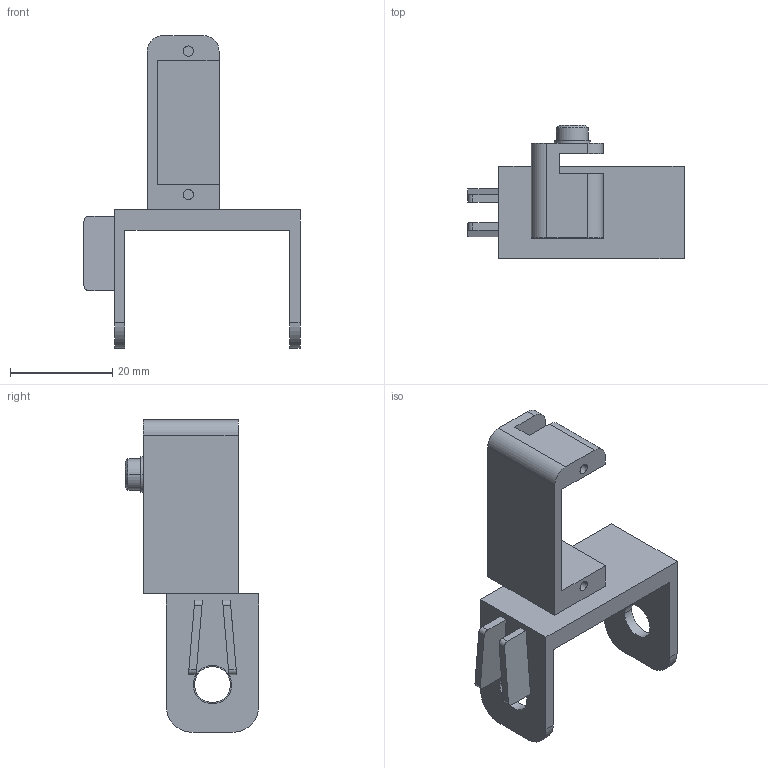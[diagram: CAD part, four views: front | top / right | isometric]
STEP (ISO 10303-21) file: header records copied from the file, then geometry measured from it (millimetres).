
FILE_DESCRIPTION((''),'2;1');
FILE_NAME('__X2_672A4FDD5B58_X0___2','2026-11-09T',('PC'),(''),'PRO/ENGINEER BY PARAMETRIC TECHNOLOGY CORPORATION, 2014320','PRO/ENGINEER BY PARAMETRIC TECHNOLOGY CORPORATION, 2014320','');
FILE_SCHEMA(('CONFIG_CONTROL_DESIGN'));
Length unit declared in the file: millimetre
Products named in the file (1): __X2_672A4FDD5B58_X0___2
Bounding box: 42.18 x 26 x 61 mm (x, y, z)
Volume: 7933 mm3; surface area: 6812 mm2
Topology: 1 solids, 3 shells, 71 faces, 181 edges, 118 vertices
Faces by surface type: plane 42, cylinder 27, cone 2
Entity records: 2211 total; most frequent: CARTESIAN_POINT 406, DIRECTION 365, ORIENTED_EDGE 362, EDGE_CURVE 181, VECTOR 123, LINE 123, AXIS2_PLACEMENT_3D 121, VERTEX_POINT 118
